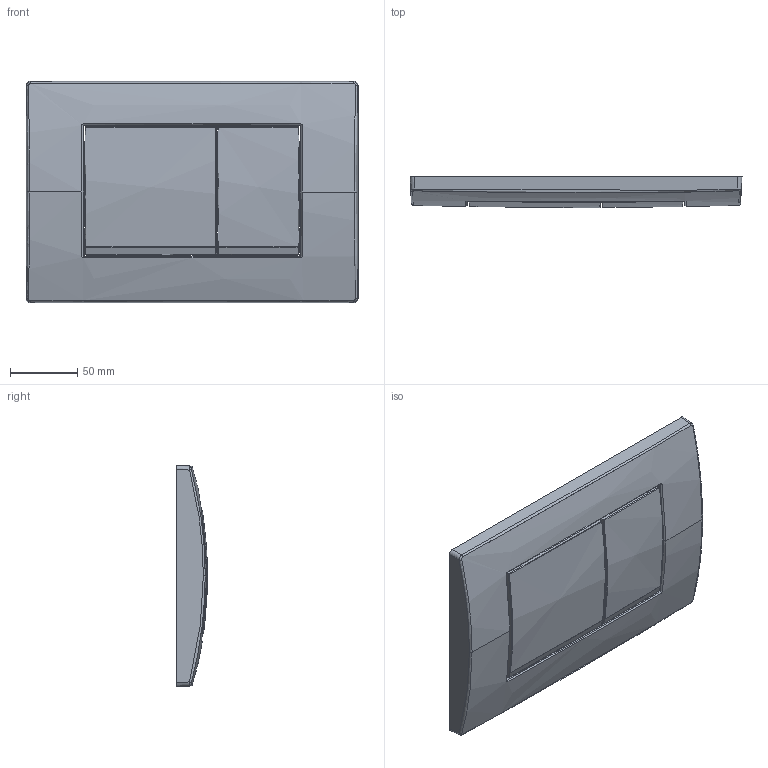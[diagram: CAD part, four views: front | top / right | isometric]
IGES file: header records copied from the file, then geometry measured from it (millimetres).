
Global section: file name: 115137; native system: Autodesk Inventor 2018; preprocessor: unknown; author: JANAN; date: 20211008.092820; units: millimetre
Bounding box: 246 x 22.96 x 164 mm (x, y, z)
Volume: 165763.3 mm3; surface area: 125571.2 mm2
Topology: 3 solids, 3 shells, 248 faces, 656 edges, 413 vertices
Faces by surface type: bspline 248
